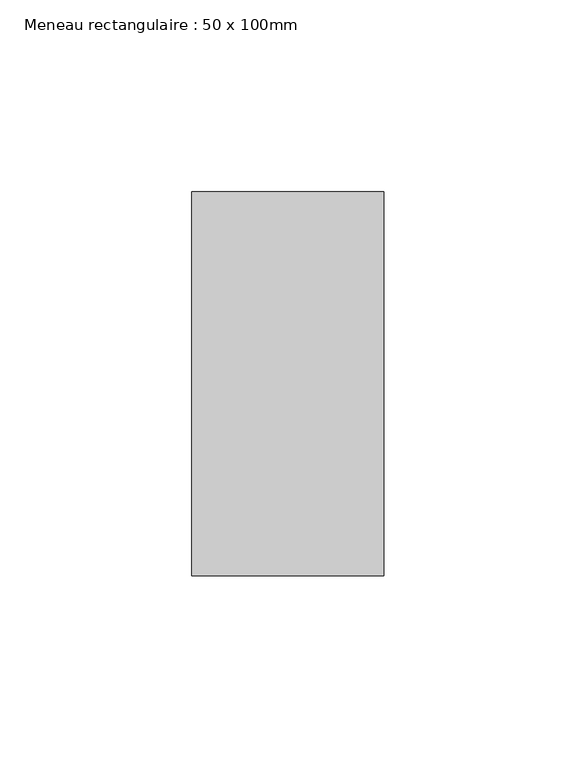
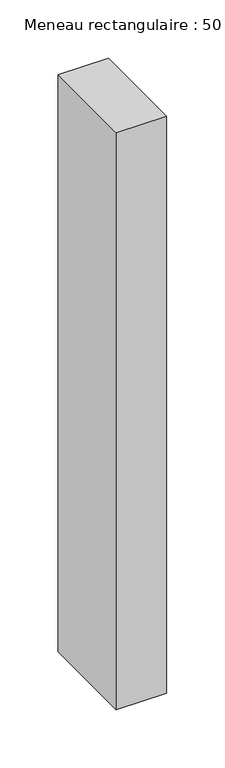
"""IFC4 building model written with IfcOpenShell, lengths in millimetres: member geometry, Meneau rectangulaire : 50 x 100mm."""

from ifc_helpers import new_model, si_unit, frame, origin, place, context, project, spatial, polyline, outline, extrude, source, transform, mapped, element, save


def meneau_rectangulaire_50_x_100mm_f6ebeedd(model_context):
    return source(origin(), model_context, "Body", "SweptSolid", [
        extrude(outline(polyline([(25.0, 50.0), (25.0, -50.0), (-25.0, -50.0), (-25.0, 50.0), (25.0, 50.0)])), frame((0.0, 0.0, -604.9294859), z_axis=(0.0, 0.0, 1.0), x_axis=(1.0, 0.0, 0.0)), (0.0, 0.0, 1.0), 604.9294859),
    ])


if __name__ == "__main__":
    model = new_model("IFC4")
    model_context = context("Model", 3, world=origin())
    ifc_project = project(units=[si_unit("LENGTHUNIT", "METRE", prefix="MILLI")], contexts=[model_context])
    site = spatial("IfcSite", under=ifc_project)
    building = spatial("IfcBuilding", under=site)
    placement = place(None, origin())
    meneau_rectangulaire_50_x_100mm_shape = meneau_rectangulaire_50_x_100mm_f6ebeedd(model_context)
    element("IfcMember", 1, ObjectType="Meneau rectangulaire : 50 x 100mm", at=placement, inside=building, context=model_context, shape_type="MappedRepresentation", body=[
        mapped(meneau_rectangulaire_50_x_100mm_shape, transform((0.0, 0.0, 0.0), x_axis=(1.0, 0.0, 0.0), y_axis=(0.0, 1.0, 0.0), z_axis=(0.0, 0.0, 1.0))),
    ])
    save(model, "model.ifc")
